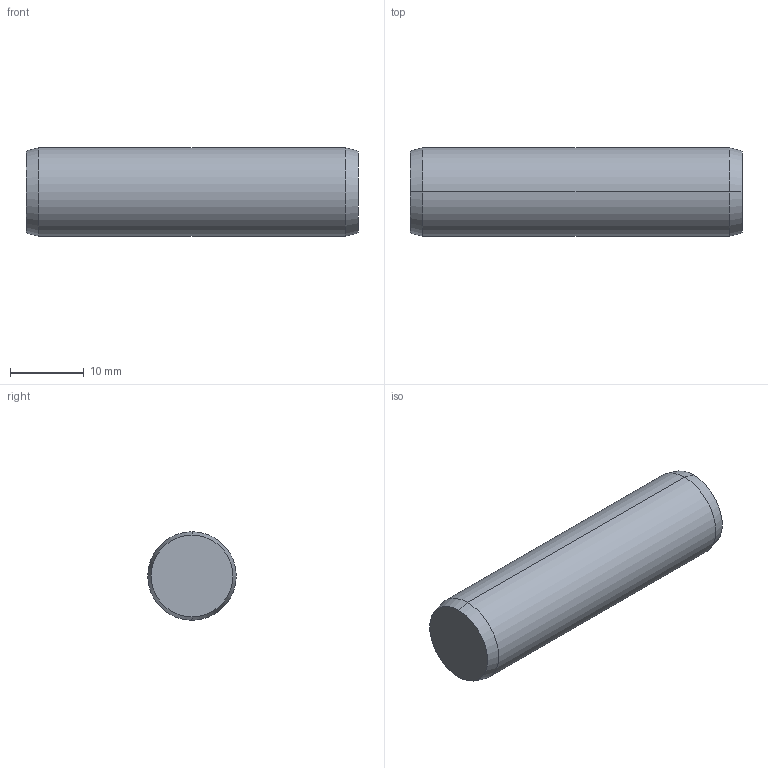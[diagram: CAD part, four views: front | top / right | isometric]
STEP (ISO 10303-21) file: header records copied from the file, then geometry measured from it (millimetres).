
FILE_DESCRIPTION (( 'STEP AP203' ), '1' );
FILE_NAME ('P1206.120-045.step', '2017-06-14T08:38:55', ( 'User' ), ( '' ), 'SwSTEP 2.0', 'SolidWorks 2009', '' );
FILE_SCHEMA (( 'CONFIG_CONTROL_DESIGN' ));
Length unit declared in the file: millimetre
Products named in the file (1): P1206.120-045
Bounding box: 45 x 12 x 12 mm (x, y, z)
Volume: 5060.9 mm3; surface area: 1889.1 mm2
Topology: 1 solids, 1 shells, 8 faces, 14 edges, 8 vertices
Faces by surface type: cone 4, cylinder 2, plane 2
Entity records: 271 total; most frequent: DIRECTION 40, CARTESIAN_POINT 31, ORIENTED_EDGE 28, AXIS2_PLACEMENT_3D 17, EDGE_CURVE 14, PERSON_AND_ORGANIZATION 8, VERTEX_POINT 8, EDGE_LOOP 8
